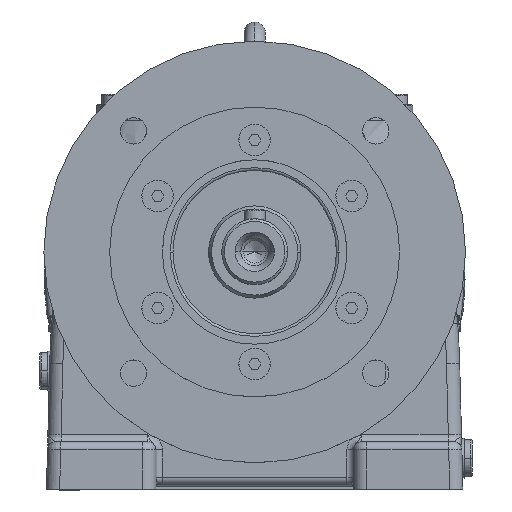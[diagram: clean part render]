
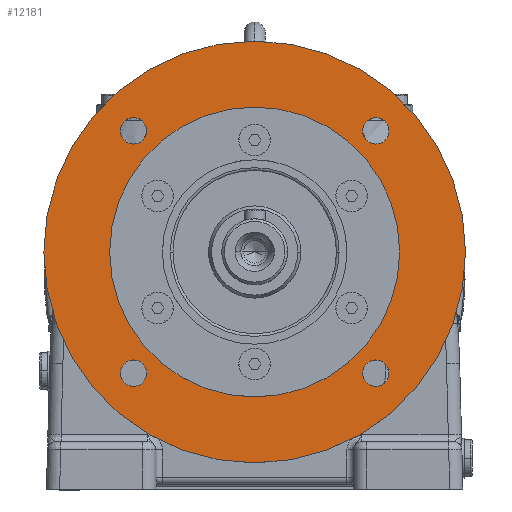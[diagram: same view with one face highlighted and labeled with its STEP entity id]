
A CAD part, top view. The second image highlights one B-rep face of the part: STEP entity #12181.
In plain terms, the highlighted planar face has unit normal (0, 0, 1).
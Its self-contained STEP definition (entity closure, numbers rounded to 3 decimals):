
#12004 = VERTEX_POINT ( 'NONE', #62486 ) ;
#12036 = VERTEX_POINT ( 'NONE', #62548 ) ;
#12038 = EDGE_CURVE ( 'NONE', #12036, #12039, #62547, .T. ) ;
#12039 = VERTEX_POINT ( 'NONE', #62542 ) ;
#12043 = VERTEX_POINT ( 'NONE', #62537 ) ;
#12054 = VERTEX_POINT ( 'NONE', #62581 ) ;
#12056 = EDGE_CURVE ( 'NONE', #12054, #12057, #62580, .T. ) ;
#12057 = VERTEX_POINT ( 'NONE', #62575 ) ;
#12060 = EDGE_CURVE ( 'NONE', #12004, #12061, #62574, .T. ) ;
#12061 = VERTEX_POINT ( 'NONE', #62569 ) ;
#12072 = VERTEX_POINT ( 'NONE', #62611 ) ;
#12074 = EDGE_CURVE ( 'NONE', #12072, #12043, #62610, .T. ) ;
#12081 = EDGE_CURVE ( 'NONE', #12082, #12083, #62599, .T. ) ;
#12082 = VERTEX_POINT ( 'NONE', #62594 ) ;
#12083 = VERTEX_POINT ( 'NONE', #62593 ) ;
#12102 = VERTEX_POINT ( 'NONE', #62680 ) ;
#12104 = EDGE_CURVE ( 'NONE', #12105, #12102, #62679, .T. ) ;
#12105 = VERTEX_POINT ( 'NONE', #62674 ) ;
#12157 = ORIENTED_EDGE ( 'NONE', *, *, #12158, .F. ) ;
#12158 = EDGE_CURVE ( 'NONE', #12043, #12072, #62803, .T. ) ;
#12159 = ORIENTED_EDGE ( 'NONE', *, *, #12074, .F. ) ;
#12160 = EDGE_LOOP ( 'NONE', ( #12161, #12163 ) ) ;
#12161 = ORIENTED_EDGE ( 'NONE', *, *, #12162, .F. ) ;
#12162 = EDGE_CURVE ( 'NONE', #12039, #12036, #62799, .T. ) ;
#12163 = ORIENTED_EDGE ( 'NONE', *, *, #12038, .F. ) ;
#12164 = EDGE_LOOP ( 'NONE', ( #12165, #12166 ) ) ;
#12165 = ORIENTED_EDGE ( 'NONE', *, *, #12081, .F. ) ;
#12166 = ORIENTED_EDGE ( 'NONE', *, *, #12167, .F. ) ;
#12167 = EDGE_CURVE ( 'NONE', #12083, #12082, #62794, .T. ) ;
#12168 = EDGE_LOOP ( 'NONE', ( #12169, #12221 ) ) ;
#12169 = ORIENTED_EDGE ( 'NONE', *, *, #12104, .T. ) ;
#12181 = ADVANCED_FACE ( 'NONE', ( #62835, #62834, #62833, #62832, #62831, #62830 ), #62815, .F. ) ;
#12182 = EDGE_LOOP ( 'NONE', ( #12157, #12159 ) ) ;
#12221 = ORIENTED_EDGE ( 'NONE', *, *, #12222, .T. ) ;
#12222 = EDGE_CURVE ( 'NONE', #12102, #12105, #62881, .T. ) ;
#12223 = EDGE_LOOP ( 'NONE', ( #12224, #12226 ) ) ;
#12224 = ORIENTED_EDGE ( 'NONE', *, *, #12225, .F. ) ;
#12225 = EDGE_CURVE ( 'NONE', #12057, #12054, #62876, .T. ) ;
#12226 = ORIENTED_EDGE ( 'NONE', *, *, #12056, .F. ) ;
#12227 = EDGE_LOOP ( 'NONE', ( #12228, #12230 ) ) ;
#12228 = ORIENTED_EDGE ( 'NONE', *, *, #12229, .F. ) ;
#12229 = EDGE_CURVE ( 'NONE', #12061, #12004, #62936, .T. ) ;
#12230 = ORIENTED_EDGE ( 'NONE', *, *, #12060, .F. ) ;
#62486 = CARTESIAN_POINT ( 'NONE',  ( 40.962, 45.962, -5. ) ) ;
#62537 = CARTESIAN_POINT ( 'NONE',  ( -40.962, 45.962, -5. ) ) ;
#62542 = CARTESIAN_POINT ( 'NONE',  ( 50.962, -45.962, -5. ) ) ;
#62543 = DIRECTION ( 'NONE',  ( 1., 0., 0. ) ) ;
#62544 = DIRECTION ( 'NONE',  ( 0., 0., 1. ) ) ;
#62545 = CARTESIAN_POINT ( 'NONE',  ( 45.962, -45.962, -5. ) ) ;
#62546 = AXIS2_PLACEMENT_3D ( 'NONE', #62545, #62544, #62543 ) ;
#62547 = CIRCLE ( 'NONE', #62546, 5. ) ;
#62548 = CARTESIAN_POINT ( 'NONE',  ( 40.962, -45.962, -5. ) ) ;
#62569 = CARTESIAN_POINT ( 'NONE',  ( 50.962, 45.962, -5. ) ) ;
#62570 = DIRECTION ( 'NONE',  ( 1., 0., 0. ) ) ;
#62571 = DIRECTION ( 'NONE',  ( 0., 0., 1. ) ) ;
#62572 = CARTESIAN_POINT ( 'NONE',  ( 45.962, 45.962, -5. ) ) ;
#62573 = AXIS2_PLACEMENT_3D ( 'NONE', #62572, #62571, #62570 ) ;
#62574 = CIRCLE ( 'NONE', #62573, 5. ) ;
#62575 = CARTESIAN_POINT ( 'NONE',  ( -40.962, -45.962, -5. ) ) ;
#62576 = DIRECTION ( 'NONE',  ( 1., 0., 0. ) ) ;
#62577 = DIRECTION ( 'NONE',  ( 0., 0., 1. ) ) ;
#62578 = CARTESIAN_POINT ( 'NONE',  ( -45.962, -45.962, -5. ) ) ;
#62579 = AXIS2_PLACEMENT_3D ( 'NONE', #62578, #62577, #62576 ) ;
#62580 = CIRCLE ( 'NONE', #62579, 5. ) ;
#62581 = CARTESIAN_POINT ( 'NONE',  ( -50.962, -45.962, -5. ) ) ;
#62593 = CARTESIAN_POINT ( 'NONE',  ( -55., 0., -5. ) ) ;
#62594 = CARTESIAN_POINT ( 'NONE',  ( 55., 0., -5. ) ) ;
#62595 = DIRECTION ( 'NONE',  ( 1., 0., 0. ) ) ;
#62596 = DIRECTION ( 'NONE',  ( 0., 0., 1. ) ) ;
#62597 = CARTESIAN_POINT ( 'NONE',  ( 0., 0., -5. ) ) ;
#62598 = AXIS2_PLACEMENT_3D ( 'NONE', #62597, #62596, #62595 ) ;
#62599 = CIRCLE ( 'NONE', #62598, 55. ) ;
#62606 = DIRECTION ( 'NONE',  ( 1., 0., 0. ) ) ;
#62607 = DIRECTION ( 'NONE',  ( 0., 0., 1. ) ) ;
#62608 = CARTESIAN_POINT ( 'NONE',  ( -45.962, 45.962, -5. ) ) ;
#62609 = AXIS2_PLACEMENT_3D ( 'NONE', #62608, #62607, #62606 ) ;
#62610 = CIRCLE ( 'NONE', #62609, 5. ) ;
#62611 = CARTESIAN_POINT ( 'NONE',  ( -50.962, 45.962, -5. ) ) ;
#62674 = CARTESIAN_POINT ( 'NONE',  ( 80., 0., -5. ) ) ;
#62675 = DIRECTION ( 'NONE',  ( 1., 0., 0. ) ) ;
#62676 = DIRECTION ( 'NONE',  ( 0., 0., 1. ) ) ;
#62677 = CARTESIAN_POINT ( 'NONE',  ( 0., 0., -5. ) ) ;
#62678 = AXIS2_PLACEMENT_3D ( 'NONE', #62677, #62676, #62675 ) ;
#62679 = CIRCLE ( 'NONE', #62678, 80. ) ;
#62680 = CARTESIAN_POINT ( 'NONE',  ( -80., 0., -5. ) ) ;
#62790 = DIRECTION ( 'NONE',  ( 1., 0., 0. ) ) ;
#62791 = DIRECTION ( 'NONE',  ( 0., 0., 1. ) ) ;
#62792 = CARTESIAN_POINT ( 'NONE',  ( 0., 0., -5. ) ) ;
#62793 = AXIS2_PLACEMENT_3D ( 'NONE', #62792, #62791, #62790 ) ;
#62794 = CIRCLE ( 'NONE', #62793, 55. ) ;
#62795 = DIRECTION ( 'NONE',  ( 1., 0., 0. ) ) ;
#62796 = DIRECTION ( 'NONE',  ( 0., 0., 1. ) ) ;
#62797 = CARTESIAN_POINT ( 'NONE',  ( 45.962, -45.962, -5. ) ) ;
#62798 = AXIS2_PLACEMENT_3D ( 'NONE', #62797, #62796, #62795 ) ;
#62799 = CIRCLE ( 'NONE', #62798, 5. ) ;
#62800 = DIRECTION ( 'NONE',  ( 1., 0., 0. ) ) ;
#62801 = DIRECTION ( 'NONE',  ( 0., 0., 1. ) ) ;
#62802 = AXIS2_PLACEMENT_3D ( 'NONE', #62808, #62801, #62800 ) ;
#62803 = CIRCLE ( 'NONE', #62802, 5. ) ;
#62808 = CARTESIAN_POINT ( 'NONE',  ( -45.962, 45.962, -5. ) ) ;
#62815 = PLANE ( 'NONE',  #62875 ) ;
#62830 = FACE_BOUND ( 'NONE', #12227, .T. ) ;
#62831 = FACE_BOUND ( 'NONE', #12223, .T. ) ;
#62832 = FACE_OUTER_BOUND ( 'NONE', #12168, .T. ) ;
#62833 = FACE_BOUND ( 'NONE', #12164, .T. ) ;
#62834 = FACE_BOUND ( 'NONE', #12160, .T. ) ;
#62835 = FACE_BOUND ( 'NONE', #12182, .T. ) ;
#62872 = DIRECTION ( 'NONE',  ( -1., 0., 0. ) ) ;
#62873 = DIRECTION ( 'NONE',  ( 0., 0., -1. ) ) ;
#62874 = CARTESIAN_POINT ( 'NONE',  ( 0., 55., -5. ) ) ;
#62875 = AXIS2_PLACEMENT_3D ( 'NONE', #62874, #62873, #62872 ) ;
#62876 = CIRCLE ( 'NONE', #62940, 5. ) ;
#62877 = DIRECTION ( 'NONE',  ( 1., 0., 0. ) ) ;
#62878 = DIRECTION ( 'NONE',  ( 0., 0., 1. ) ) ;
#62879 = CARTESIAN_POINT ( 'NONE',  ( 0., 0., -5. ) ) ;
#62880 = AXIS2_PLACEMENT_3D ( 'NONE', #62879, #62878, #62877 ) ;
#62881 = CIRCLE ( 'NONE', #62880, 80. ) ;
#62932 = DIRECTION ( 'NONE',  ( 1., 0., 0. ) ) ;
#62933 = DIRECTION ( 'NONE',  ( 0., 0., 1. ) ) ;
#62934 = CARTESIAN_POINT ( 'NONE',  ( 45.962, 45.962, -5. ) ) ;
#62935 = AXIS2_PLACEMENT_3D ( 'NONE', #62934, #62933, #62932 ) ;
#62936 = CIRCLE ( 'NONE', #62935, 5. ) ;
#62937 = DIRECTION ( 'NONE',  ( 1., 0., 0. ) ) ;
#62938 = DIRECTION ( 'NONE',  ( 0., 0., 1. ) ) ;
#62939 = CARTESIAN_POINT ( 'NONE',  ( -45.962, -45.962, -5. ) ) ;
#62940 = AXIS2_PLACEMENT_3D ( 'NONE', #62939, #62938, #62937 ) ;
